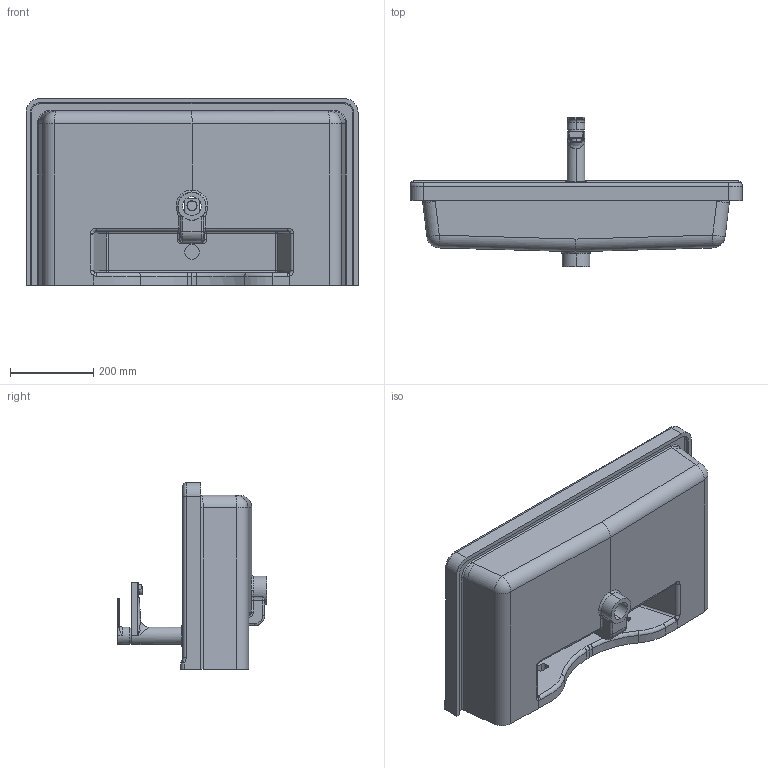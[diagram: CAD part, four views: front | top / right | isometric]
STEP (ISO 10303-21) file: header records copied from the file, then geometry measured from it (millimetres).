
FILE_DESCRIPTION (( 'STEP AP203' ), '1' );
FILE_NAME ('IP080 TAÞMA KANALLI SLDPRT.STEP', '2022-10-27T14:17:33', ( '' ), ( '' ), 'SwSTEP 2.0', 'SolidWorks 2021', '' );
FILE_SCHEMA (( 'CONFIG_CONTROL_DESIGN' ));
Length unit declared in the file: millimetre
Products named in the file (1): IP080 TAÞMA KANALLI SLDPRT
Bounding box: 796 x 358.5 x 448 mm (x, y, z)
Volume: 17909842.8 mm3; surface area: 1493866.6 mm2
Topology: 8 solids, 9 shells, 308 faces, 742 edges, 437 vertices
Faces by surface type: cylinder 122, plane 85, bspline 65, torus 24, sphere 12
Entity records: 21494 total; most frequent: CARTESIAN_POINT 14799, ORIENTED_EDGE 1452, DIRECTION 1305, EDGE_CURVE 726, AXIS2_PLACEMENT_3D 502, VERTEX_POINT 437, EDGE_LOOP 319, FACE_OUTER_BOUND 308
